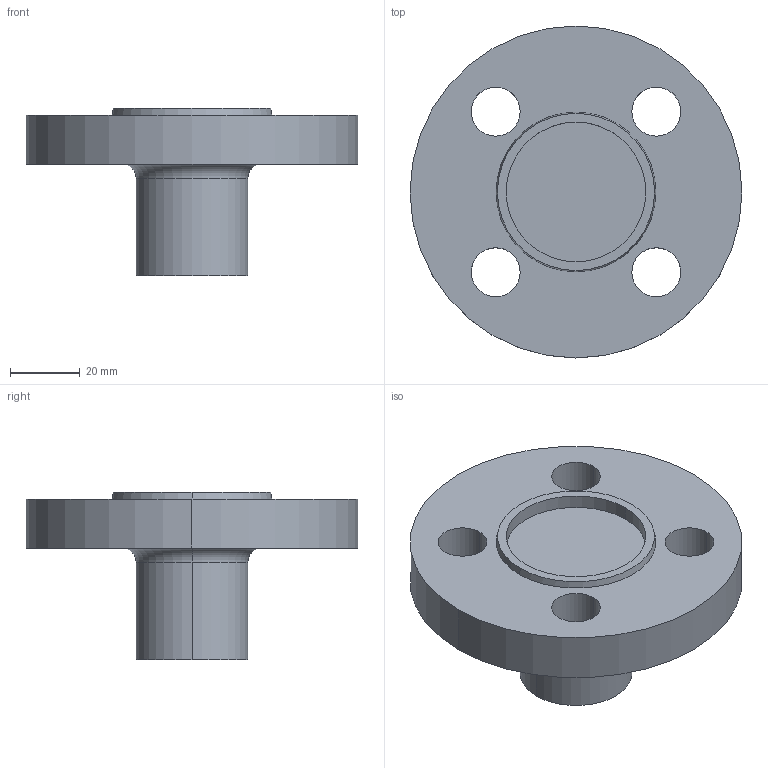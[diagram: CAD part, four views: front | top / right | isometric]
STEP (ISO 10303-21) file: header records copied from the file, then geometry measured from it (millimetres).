
FILE_DESCRIPTION (( 'STEP AP214' ), '1' );
FILE_NAME ('PN40 DN15 Type 21(i) - Type F Face.STEP', '2018-12-29T14:28:18', ( '' ), ( '' ), 'SwSTEP 2.0', 'SolidWorks 2019', '' );
FILE_SCHEMA (( 'AUTOMOTIVE_DESIGN' ));
Length unit declared in the file: millimetre
Products named in the file (1): PN40 DN15 Type 21(i) - Type F Face
Bounding box: 95 x 95 x 48 mm (x, y, z)
Volume: 114919.3 mm3; surface area: 23379.5 mm2
Topology: 1 solids, 1 shells, 23 faces, 52 edges, 34 vertices
Faces by surface type: cylinder 14, plane 5, torus 2, cone 2
Entity records: 716 total; most frequent: DIRECTION 136, CARTESIAN_POINT 110, ORIENTED_EDGE 104, AXIS2_PLACEMENT_3D 60, EDGE_CURVE 52, CIRCLE 36, VERTEX_POINT 34, EDGE_LOOP 34
